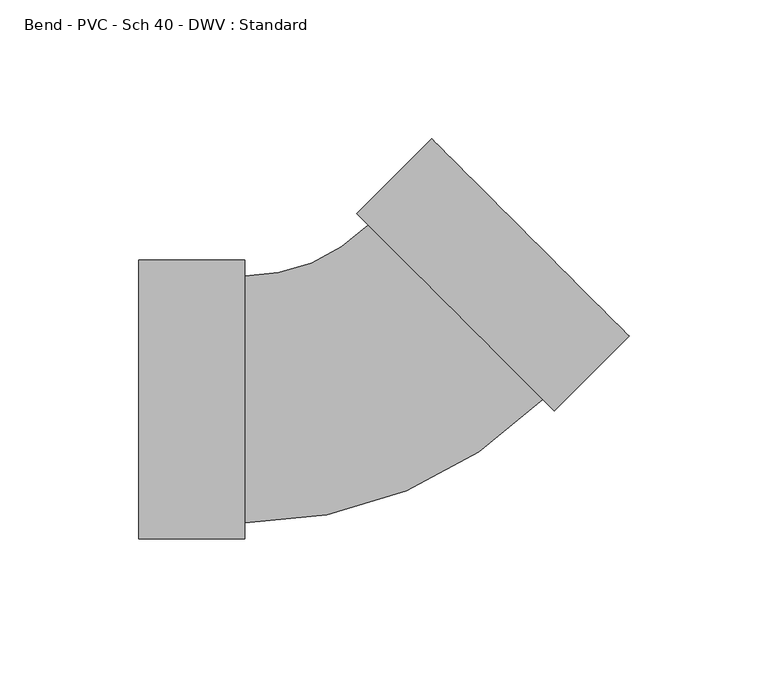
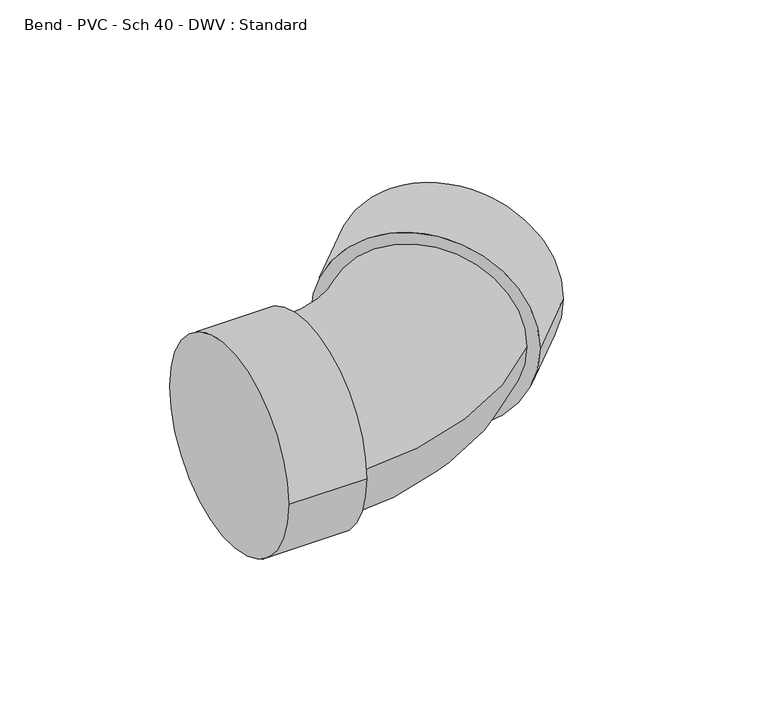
"""IFC4 building model written with IfcOpenShell, lengths in millimetres: pipe fitting geometry, Bend - PVC - Sch 40 - DWV : Standard."""

import ifcopenshell
import ifcopenshell.guid

model = None  # the IFC model being written
_history = None  # IfcOwnerHistory: only IFC2X3 demands one
_inside = {}  # id of a spatial element -> (the spatial element, [elements in it])
_under = {}  # id of a project, library or spatial element -> (it, [spatial elements below it])
_declared = {}  # id of a project -> (the project, [libraries it declares])
_typed = {}  # id of a type object -> (the type object, [elements of that type])
_made_of = {}  # id of a material, layer set ... -> (it, [elements and type objects made of it])


def new_model(schema):
    """Start an empty IFC model of exactly this schema.

    Asked for "IFC4X3", IfcOpenShell would pick the latest addendum, in which some entities
    have other attributes; the version numbers below select the first issue.
    IFC2X3 requires an IfcOwnerHistory on every rooted entity: one is made here for all.
    """
    global model, _history
    if schema == "IFC4X3":
        model = ifcopenshell.file(schema_version=(4, 3, 0, 0))
    else:
        model = ifcopenshell.file(schema=schema)
    _inside.clear()
    _under.clear()
    _declared.clear()
    _typed.clear()
    _made_of.clear()
    _history = None
    if model.schema == "IFC2X3":
        org = make("IfcOrganization", Name="unknown")
        user = make(
            "IfcPersonAndOrganization",
            ThePerson=make("IfcPerson", FamilyName="unknown"),
            TheOrganization=org,
        )
        app = make(
            "IfcApplication",
            ApplicationDeveloper=org,
            Version="unknown",
            ApplicationFullName="unknown",
            ApplicationIdentifier="unknown",
        )
        _history = make(
            "IfcOwnerHistory",
            OwningUser=user,
            OwningApplication=app,
            ChangeAction="ADDED",
            CreationDate=0,
        )
    return model


def make(cls, **values):
    """One entity of the class cls with the attributes given. An attribute that is None is left unset."""
    return model.create_entity(
        cls, **{name: value for name, value in values.items() if value is not None}
    )


def rooted(cls, **values):
    """An entity with a GlobalId (a new one), such as an element, a storey or a relation."""
    return make(cls, GlobalId=ifcopenshell.guid.new(), OwnerHistory=_history, **values)


def si_unit(unit_type, name, prefix=None):
    """IfcSIUnit, for example si_unit("LENGTHUNIT", "METRE", prefix="MILLI")."""
    return make("IfcSIUnit", UnitType=unit_type, Prefix=prefix, Name=name)


def assignment(units):
    """IfcUnitAssignment: the units of a project."""
    return None if units is None else make("IfcUnitAssignment", Units=units)


def point(xyz):
    """IfcCartesianPoint."""
    return None if xyz is None else make("IfcCartesianPoint", Coordinates=xyz)


def direction(xyz):
    """IfcDirection."""
    return None if xyz is None else make("IfcDirection", DirectionRatios=xyz)


def frame(location, z_axis=None, x_axis=None):
    """IfcAxis2Placement3D, a coordinate frame: its origin and axes. An axis left out is left unset."""
    return make(
        "IfcAxis2Placement3D",
        Location=point(location),
        Axis=direction(z_axis),
        RefDirection=direction(x_axis),
    )


def origin():
    """The frame at (0, 0, 0) with its axes left unset."""
    return frame((0.0, 0.0, 0.0))


def place(relative_to, where):
    """IfcLocalPlacement: puts the frame where relative to a parent placement (None: the world)."""
    return make(
        "IfcLocalPlacement", PlacementRelTo=relative_to, RelativePlacement=where
    )


def context(
    kind, dimensions, precision=None, world=None, true_north=None, identifier=None
):
    """IfcGeometricRepresentationContext, for example the 3D "Model" context."""
    return make(
        "IfcGeometricRepresentationContext",
        ContextIdentifier=identifier,
        ContextType=kind,
        CoordinateSpaceDimension=dimensions,
        Precision=precision,
        WorldCoordinateSystem=world,
        TrueNorth=true_north,
    )


def project(units=None, contexts=None):
    """IfcProject with its units and contexts."""
    return rooted(
        "IfcProject",
        Name="project",
        RepresentationContexts=contexts,
        UnitsInContext=assignment(units),
    )


def spatial(cls, under=None, at=None, **own):
    """A site, building, storey or space (cls), placed at a placement, below another one or the project."""
    s = rooted(cls, ObjectPlacement=at, **own)
    if under is not None:
        _under.setdefault(under.id(), (under, []))[1].append(s)
    return s


def circle_curve(where, radius):
    """IfcCircle in the frame where."""
    return make("IfcCircle", Position=where, Radius=radius)


def ellipse_curve(where, semi_axis1, semi_axis2):
    """IfcEllipse in the frame where."""
    return make(
        "IfcEllipse", Position=where, SemiAxis1=semi_axis1, SemiAxis2=semi_axis2
    )


def trimmed(basis, trim1, trim2, sense, master):
    """IfcTrimmedCurve: the piece of a basis curve between two trims."""
    return make(
        "IfcTrimmedCurve",
        BasisCurve=basis,
        Trim1=trim1,
        Trim2=trim2,
        SenseAgreement=sense,
        MasterRepresentation=master,
    )


def shape(context_of_items, identifier, shape_type, items):
    """IfcShapeRepresentation: the items that make up one representation, for example the "Body"."""
    return make(
        "IfcShapeRepresentation",
        ContextOfItems=context_of_items,
        RepresentationIdentifier=identifier,
        RepresentationType=shape_type,
        Items=items,
    )


def source(mapping_origin, context_of_items, identifier, shape_type, items):
    """IfcRepresentationMap: a shape defined once, which mapped items show again and again."""
    return make(
        "IfcRepresentationMap",
        MappingOrigin=mapping_origin,
        MappedRepresentation=shape(context_of_items, identifier, shape_type, items),
    )


def transform(
    local_origin,
    x_axis=None,
    y_axis=None,
    z_axis=None,
    scale=None,
    scale2=None,
    scale3=None,
    uniform=True,
):
    """IfcCartesianTransformationOperator3D, or its non-uniform kind. x_axis, y_axis, z_axis: its Axis1, 2, 3."""
    if uniform:
        return make(
            "IfcCartesianTransformationOperator3D",
            Axis1=direction(x_axis),
            Axis2=direction(y_axis),
            LocalOrigin=point(local_origin),
            Scale=scale,
            Axis3=direction(z_axis),
        )
    return make(
        "IfcCartesianTransformationOperator3DnonUniform",
        Axis1=direction(x_axis),
        Axis2=direction(y_axis),
        LocalOrigin=point(local_origin),
        Scale=scale,
        Axis3=direction(z_axis),
        Scale2=scale2,
        Scale3=scale3,
    )


def mapped(mapping_source, mapping_target):
    """IfcMappedItem: shows the shape of a source again, moved by a transform."""
    return make(
        "IfcMappedItem", MappingSource=mapping_source, MappingTarget=mapping_target
    )


def made_of(thing, what):
    """Note that an element or type object is made of a material, layer set ...; save() writes the relation."""
    if what is not None:
        _made_of.setdefault(what.id(), (what, []))[1].append(thing)
    return thing


def element(
    cls,
    number,
    at=None,
    inside=None,
    cuts=None,
    type_object=None,
    material=None,
    context=None,
    identifier="Body",
    shape_type=None,
    held_by="IfcProductDefinitionShape",
    body=None,
    shapes=None,
    **own,
):
    """One element of the class cls, such as IfcWall. Its Tag is "e" and its number.

    at: its placement. inside: the storey or other place that contains it. cuts: it is an
    opening in that element (IfcRelVoidsElement). A single representation is given by context,
    identifier, shape_type and body (its items); several are given by shapes. held_by: the class
    of the entity that holds the representations. save() writes the other relations.
    """
    e = rooted(cls, Tag="e%d" % number, ObjectPlacement=at, **own)
    if body is not None:
        shapes = [shape(context, identifier, shape_type, body)]
    if shapes is not None:
        e.Representation = make(held_by, Representations=shapes)
    if inside is not None:
        _inside.setdefault(inside.id(), (inside, []))[1].append(e)
    if cuts is not None:
        rooted(
            "IfcRelVoidsElement", RelatingBuildingElement=cuts, RelatedOpeningElement=e
        )
    if type_object is not None:
        _typed.setdefault(type_object.id(), (type_object, []))[1].append(e)
    return made_of(e, material)


def aggregate(whole, parts):
    """IfcRelAggregates: a whole, such as a stair, and the parts it consists of."""
    return rooted("IfcRelAggregates", RelatingObject=whole, RelatedObjects=parts)


def save(model, path):
    """Write the relations noted so far, then the file.

    IfcRelAggregates (storeys below a building ...), IfcRelContainedInSpatialStructure (elements
    in a storey), IfcRelDefinesByType, IfcRelAssociatesMaterial and IfcRelDeclares: one each for
    every whole, place, type object, material and project.
    """
    for whole, parts in _under.values():
        aggregate(whole, parts)
    for where, things in _inside.values():
        rooted(
            "IfcRelContainedInSpatialStructure",
            RelatedElements=things,
            RelatingStructure=where,
        )
    for kind, things in _typed.values():
        rooted("IfcRelDefinesByType", RelatedObjects=things, RelatingType=kind)
    for what, things in _made_of.values():
        rooted("IfcRelAssociatesMaterial", RelatedObjects=things, RelatingMaterial=what)
    for by, libraries in _declared.values():
        rooted("IfcRelDeclares", RelatingContext=by, RelatedDefinitions=libraries)
    model.write(path)


def plane_surface(at):
    """IfcPlane: the flat surface through the origin of the frame at, square to its z axis."""
    return make("IfcPlane", Position=at)


def cylinder_surface(at, radius):
    """IfcCylindricalSurface: all points at the distance radius from the z axis of the frame at."""
    return make("IfcCylindricalSurface", Position=at, Radius=radius)


def revolved_surface(curve, axis_point, axis_direction):
    """IfcSurfaceOfRevolution: the curve turned about the line through axis_point along axis_direction."""
    return make(
        "IfcSurfaceOfRevolution",
        SweptCurve=make("IfcArbitraryOpenProfileDef", ProfileType="CURVE", Curve=curve),
        AxisPosition=make("IfcAxis1Placement", Location=point(axis_point), Axis=direction(axis_direction)),
    )


def advanced_brep(points, edges, surfaces, faces):
    """IfcAdvancedBrep: a solid bounded by faces that lie on surfaces and meet in shared edges.

    An edge is (start, end): straight between two places in points (the first is 0);
    or (start, end, curve); or (start, end, curve, False) where it runs against its curve.
    A face is (place in surfaces, loops), or (place, loops, False) where it looks against
    its surface's normal. A loop lists edges by number (the first is 1), with a minus sign
    where the edge is run from its end to its start. The first loop is the outer one.
    """
    corners = [point(p) for p in points]
    vertices = [make("IfcVertexPoint", VertexGeometry=c) for c in corners]
    made = []
    for start, end, *more in edges:
        made.append(
            make(
                "IfcEdgeCurve",
                EdgeStart=vertices[start],
                EdgeEnd=vertices[end],
                EdgeGeometry=more[0] if more else make("IfcPolyline", Points=[corners[start], corners[end]]),
                SameSense=more[1] if len(more) > 1 else True,
            )
        )
    hull = []
    for where, loops, *sense in faces:
        bounds = []
        for j, loop in enumerate(loops):
            ring = [make("IfcOrientedEdge", EdgeElement=made[abs(k) - 1], Orientation=k > 0) for k in loop]
            bounds.append(
                make(
                    "IfcFaceOuterBound" if j == 0 else "IfcFaceBound",
                    Bound=make("IfcEdgeLoop", EdgeList=ring),
                    Orientation=True,
                )
            )
        hull.append(make("IfcAdvancedFace", Bounds=bounds, FaceSurface=surfaces[where], SameSense=sense[0] if sense else True))
    return make("IfcAdvancedBrep", Outer=make("IfcClosedShell", CfsFaces=hull))


def bend_pvc_sch_40_dwv_standard_06284595(model_context):
    return source(origin(), model_context, "Body", "AdvancedBrep", [
        advanced_brep(
        [(-82.55, -50.2666, 0.0), (-82.55, 50.2666, 0.0), (-44.45, -50.2666, 0.0), (-44.45, 50.2666, 0.0), (-44.45, -44.45, 0.0), (-44.45, 44.45, 0.0), (0.0124989, 62.8617916, 0.0), (62.8617916, -0.0124989, 0.0), (66.973931, -4.1262739, 0.0), (-4.0996406, 66.9755666, 0.0), (93.9200555, 22.8091373, 0.0), (22.8464839, 93.9109778, 0.0)],
        [
            (0, 1, circle_curve(frame((-82.55, 0.0, 0.0), z_axis=(-1.0, 0.0, 0.0), x_axis=(0.0, 1.0, 0.0)), 50.2666)),
            (1, 0, circle_curve(frame((-82.55, 0.0, 0.0), z_axis=(-1.0, 0.0, 0.0), x_axis=(0.0, 1.0, 0.0)), 50.2666)),
            (2, 3, circle_curve(frame((-44.45, 0.0, 0.0), z_axis=(1.0, 0.0, 0.0), x_axis=(0.0, 1.0, 0.0)), 50.2666)),
            (3, 2, circle_curve(frame((-44.45, 0.0, 0.0), z_axis=(1.0, 0.0, 0.0), x_axis=(0.0, 1.0, 0.0)), 50.2666)),
            (4, 5, circle_curve(frame((-44.45, 0.0, 0.0), z_axis=(-1.0, 0.0, 0.0), x_axis=(0.0, 1.0, 0.0)), 44.45)),
            (5, 4, circle_curve(frame((-44.45, 0.0, 0.0), z_axis=(-1.0, 0.0, 0.0), x_axis=(0.0, 1.0, 0.0)), 44.45)),
            (0, 2),
            (3, 1),
            (6, 5, circle_curve(frame((-44.45, 107.341975, 0.0), z_axis=(0.0, 0.0, -1.0), x_axis=(0.0, -1.0, 0.0)), 62.891975)),
            (4, 7, circle_curve(frame((-44.45, 107.341975, 0.0), z_axis=(0.0, 0.0, 1.0), x_axis=(0.0, -1.0, 0.0)), 151.791975)),
            (7, 6, circle_curve(frame((31.4371452, 31.4246464, 0.0), z_axis=(-0.7072473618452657, -0.7069661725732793, 0.0), x_axis=(-0.7069661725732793, 0.7072473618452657, 0.0)), 44.45)),
            (6, 7, circle_curve(frame((31.4371452, 31.4246464, 0.0), z_axis=(-0.7072473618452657, -0.7069661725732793, 0.0), x_axis=(-0.7069661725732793, 0.7072473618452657, 0.0)), 44.45)),
            (8, 9, circle_curve(frame((31.4371452, 31.4246464, 0.0), z_axis=(-0.7072473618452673, -0.7069661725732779, 0.0), x_axis=(-0.7069661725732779, 0.7072473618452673, 0.0)), 50.2666)),
            (9, 8, circle_curve(frame((31.4371452, 31.4246464, 0.0), z_axis=(-0.7072473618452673, -0.7069661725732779, 0.0), x_axis=(-0.7069661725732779, 0.7072473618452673, 0.0)), 50.2666)),
            (10, 11, circle_curve(frame((58.3832697, 58.3600575, 0.0), z_axis=(0.7072473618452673, 0.7069661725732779, 0.0), x_axis=(-0.7069661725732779, 0.7072473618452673, 0.0)), 50.2666)),
            (11, 10, circle_curve(frame((58.3832697, 58.3600575, 0.0), z_axis=(0.7072473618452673, 0.7069661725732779, 0.0), x_axis=(-0.7069661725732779, 0.7072473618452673, 0.0)), 50.2666)),
            (8, 10),
            (11, 9),
        ],
        [
            plane_surface(frame((-82.55, 0.0, 0.0), z_axis=(-1.0, 0.0, 0.0), x_axis=(0.0, 0.0, 1.0))),
            plane_surface(frame((-44.45, 0.0, 0.0), z_axis=(1.0, 0.0, 0.0), x_axis=(0.0, 0.0, 1.0))),
            cylinder_surface(frame((-82.55, 0.0, 0.0), z_axis=(-1.0, 0.0, 0.0), x_axis=(0.0, 1.0, 0.0)), 50.2666),
            revolved_surface(trimmed(ellipse_curve(frame((-44.45, 0.0, 0.0), z_axis=(-1.0, 0.0, 0.0), x_axis=(0.0, 1.0, 0.0)), 44.45, 44.45), [point((-44.45, -44.45, 0.0))], [point((-44.45, 44.45, 0.0))], True, "CARTESIAN"), (-44.45, 107.341975, 0.0), (0.0, 0.0, 1.0)),
            revolved_surface(trimmed(ellipse_curve(frame((-44.45, 0.0, 0.0), z_axis=(-1.0, 0.0, 0.0), x_axis=(0.0, 1.0, 0.0)), 44.45, 44.45), [point((-44.45, 44.45, 0.0))], [point((-44.45, -44.45, 0.0))], True, "CARTESIAN"), (-44.45, 107.341975, 0.0), (0.0, 0.0, 1.0)),
            plane_surface(frame((31.4371452, 31.4246464, 0.0), z_axis=(-0.7072473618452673, -0.7069661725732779, 0.0), x_axis=(0.0, 0.0, 1.0))),
            plane_surface(frame((58.3832697, 58.3600575, 0.0), z_axis=(0.7072473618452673, 0.7069661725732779, 0.0), x_axis=(0.0, 0.0, 1.0))),
            cylinder_surface(frame((31.4371452, 31.4246464, 0.0), z_axis=(-0.7072473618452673, -0.7069661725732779, 0.0), x_axis=(-0.7069661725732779, 0.7072473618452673, 0.0)), 50.2666),
        ],
        [
            (0, [[1, 2]]),
            (1, [[3, 4], [5, 6]]),
            (2, [[-1, 7, -4, 8]]),
            (2, [[-2, -8, -3, -7]]),
            (3, [[9, -5, 10, 11]]),
            (4, [[-9, 12, -10, -6]]),
            (5, [[13, 14], [-11, -12]]),
            (6, [[15, 16]]),
            (7, [[-13, 17, -16, 18]]),
            (7, [[-14, -18, -15, -17]]),
        ],
    ),
    ])


if __name__ == "__main__":
    model = new_model("IFC4")
    model_context = context("Model", 3, world=origin())
    ifc_project = project(units=[si_unit("LENGTHUNIT", "METRE", prefix="MILLI")], contexts=[model_context])
    site = spatial("IfcSite", under=ifc_project)
    building = spatial("IfcBuilding", under=site)
    placement = place(None, origin())
    bend_pvc_sch_40_dwv_standard_shape = bend_pvc_sch_40_dwv_standard_06284595(model_context)
    element("IfcPipeFitting", 1, ObjectType="Bend - PVC - Sch 40 - DWV : Standard", at=placement, inside=building, context=model_context, shape_type="MappedRepresentation", body=[
        mapped(bend_pvc_sch_40_dwv_standard_shape, transform((0.0, 0.0, 0.0), x_axis=(1.0, 0.0, 0.0), y_axis=(0.0, 1.0, 0.0), z_axis=(0.0, 0.0, 1.0))),
    ])
    save(model, "model.ifc")
